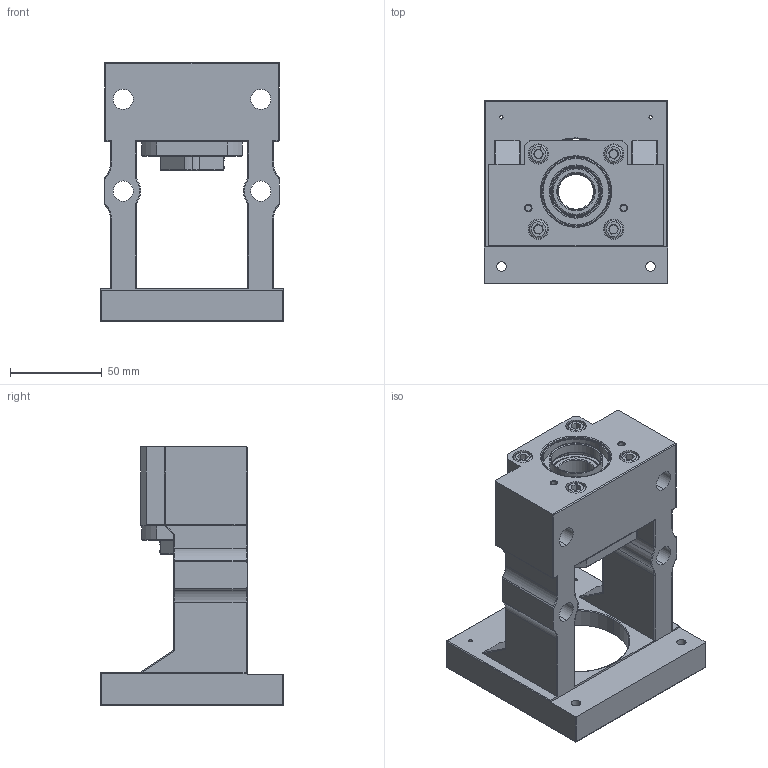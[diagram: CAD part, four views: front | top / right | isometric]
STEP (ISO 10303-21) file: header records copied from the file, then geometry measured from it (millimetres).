
FILE_DESCRIPTION (( 'STEP AP203' ), '1' );
FILE_NAME ('MBCF20-YP.STEP', '2017-12-28T07:29:12', ( '' ), ( '' ), 'SwSTEP 2.0', 'SolidWorks 2017', '' );
FILE_SCHEMA (( 'CONFIG_CONTROL_DESIGN' ));
Length unit declared in the file: millimetre
Products named in the file (1): MBCF20-YP
Bounding box: 100 x 100 x 141 mm (x, y, z)
Surface area: 86262.3 mm2 (no closed solid volume)
Topology: 0 solids, 19 shells, 374 faces, 939 edges, 583 vertices
Faces by surface type: cylinder 144, plane 108, torus 56, cone 54, sphere 8, bspline 4
Entity records: 11686 total; most frequent: CARTESIAN_POINT 2559, DIRECTION 2046, ORIENTED_EDGE 1725, EDGE_CURVE 931, AXIS2_PLACEMENT_3D 822, VERTEX_POINT 583, CIRCLE 451, EDGE_LOOP 434
